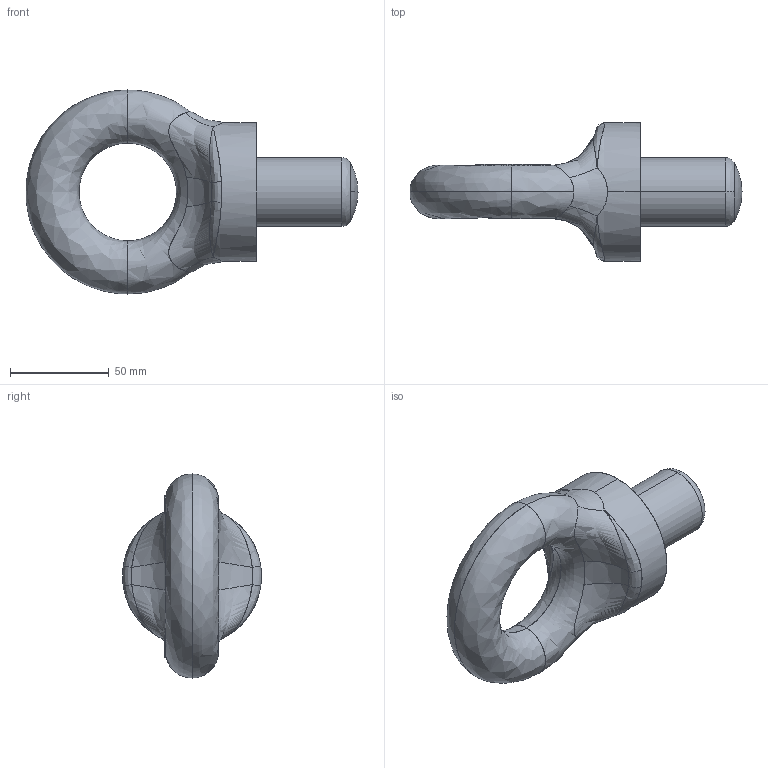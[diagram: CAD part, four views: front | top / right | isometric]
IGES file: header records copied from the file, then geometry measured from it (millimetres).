
Start section: SolidWorks IGES FILE using analytic representation for surfaces
Global section: file name: C:\Documents and Settings\Townley Workstation\Desktop\tooling\Townley products\Eye bolts\EBB1250\Model\Finished part Drawings\4T Eyebolt.IGS; native system: SolidWorks 2004 by SolidWorks Corporation; preprocessor: Version 5.3; author: Townley Workstation; date: 091119.135714; units: millimetre
Bounding box: 168.4 x 70.5 x 103.5 mm (x, y, z)
Surface area: 34232.6 mm2 (no closed solid volume)
Topology: 0 solids, 0 shells, 227 faces, 2969 edges, 2965 vertices
Faces by surface type: bspline 221, revolution 6
